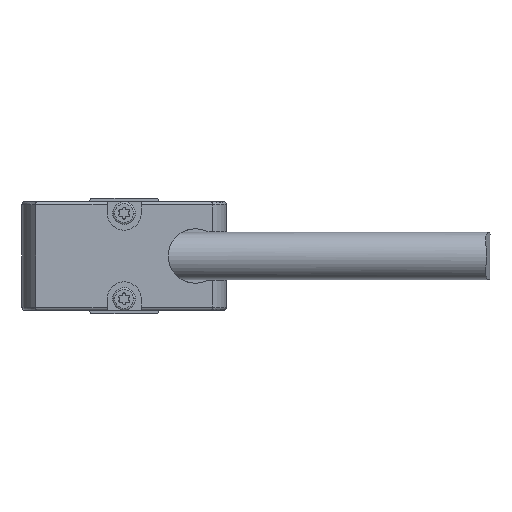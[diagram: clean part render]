
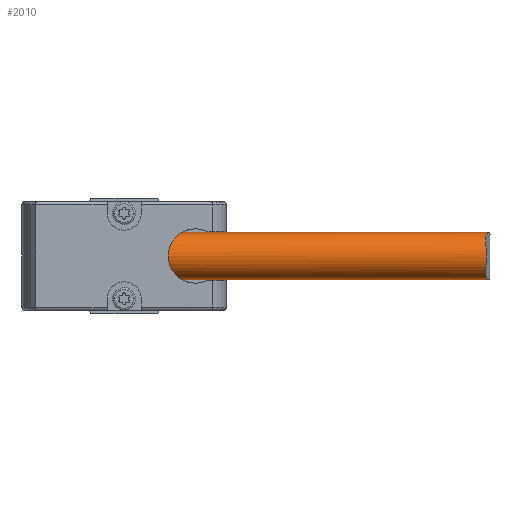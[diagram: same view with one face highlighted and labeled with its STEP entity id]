
A CAD part, front view. The second image highlights one B-rep face of the part: STEP entity #2010.
In plain terms, the highlighted cylindrical face has radius 3.5 mm (diameter 7 mm), a partial arc.
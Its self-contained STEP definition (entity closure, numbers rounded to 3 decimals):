
#1297 = CARTESIAN_POINT ( 'NONE',  ( 53.577, 4.95, -3.5 ) ) ;
#1369 = ORIENTED_EDGE ( 'NONE', *, *, #6492, .T. ) ;
#1558 = CARTESIAN_POINT ( 'NONE',  ( 53.577, 4.95, 3.5 ) ) ;
#1564 = VERTEX_POINT ( 'NONE', #17494 ) ;
#2010 = ADVANCED_FACE ( 'NONE', ( #4254 ), #4469, .T. ) ;
#2567 = CARTESIAN_POINT ( 'NONE',  ( 53.182, 1.564, -0.917 ) ) ;
#2611 = EDGE_CURVE ( 'NONE', #1564, #19064, #19495, .T. ) ;
#2769 = CARTESIAN_POINT ( 'NONE',  ( 53.529, 4.724, -3.5 ) ) ;
#2978 = EDGE_CURVE ( 'NONE', #8297, #19064, #20487, .T. ) ;
#3086 = CARTESIAN_POINT ( 'NONE',  ( 53.224, 3.418, 3.155 ) ) ;
#4254 = FACE_OUTER_BOUND ( 'NONE', #16435, .T. ) ;
#4469 = CYLINDRICAL_SURFACE ( 'NONE', #17158, 3.5 ) ;
#4524 = CARTESIAN_POINT ( 'NONE',  ( 55., 4.95, -3.5 ) ) ;
#4658 = CARTESIAN_POINT ( 'NONE',  ( 53.366, 4.054, 3.391 ) ) ;
#4862 = DIRECTION ( 'NONE',  ( 0., 0., -1. ) ) ;
#4962 = CARTESIAN_POINT ( 'NONE',  ( 53.529, 4.722, 3.5 ) ) ;
#5227 = ORIENTED_EDGE ( 'NONE', *, *, #2978, .F. ) ;
#5703 = B_SPLINE_CURVE_WITH_KNOTS ( 'NONE', 3,
 ( #17078, #2769, #6124, #6234, #9157, #15521, #12594, #10507, #20103, #9256, #14033, #15617, #20412, #16883, #2567, #8946, #15301, #7368, #5817, #14557, #12902, #19267, #12689, #19058, #17692, #17801, #9765, #14342, #3086, #19361, #4658, #11316, #4962, #17512 ),
 .UNSPECIFIED., .F., .F.,
 ( 4, 2, 2, 2, 2, 2, 2, 2, 2, 2, 2, 2, 2, 2, 2, 2, 4 ),
 ( 0.011, 0.012, 0.012, 0.013, 0.014, 0.014, 0.015, 0.016, 0.017, 0.017, 0.018, 0.019, 0.019, 0.02, 0.021, 0.021, 0.022 ),
 .UNSPECIFIED. ) ;
#5817 = CARTESIAN_POINT ( 'NONE',  ( 53.196, 1.473, 0.461 ) ) ;
#6124 = CARTESIAN_POINT ( 'NONE',  ( 53.474, 4.497, -3.478 ) ) ;
#6234 = CARTESIAN_POINT ( 'NONE',  ( 53.367, 4.058, -3.392 ) ) ;
#6329 = CARTESIAN_POINT ( 'NONE',  ( 5., 4.95, -3.5 ) ) ;
#6492 = EDGE_CURVE ( 'NONE', #15193, #1564, #7622, .T. ) ;
#7368 = CARTESIAN_POINT ( 'NONE',  ( 53.2, 1.45, 0.228 ) ) ;
#7622 = LINE ( 'NONE', #10959, #11369 ) ;
#7808 = ORIENTED_EDGE ( 'NONE', *, *, #13948, .T. ) ;
#8297 = VERTEX_POINT ( 'NONE', #1297 ) ;
#8946 = CARTESIAN_POINT ( 'NONE',  ( 53.196, 1.473, -0.461 ) ) ;
#9157 = CARTESIAN_POINT ( 'NONE',  ( 53.315, 3.841, -3.328 ) ) ;
#9256 = CARTESIAN_POINT ( 'NONE',  ( 53.114, 2.326, -2.328 ) ) ;
#9313 = DIRECTION ( 'NONE',  ( -1., 0., 0. ) ) ;
#9765 = CARTESIAN_POINT ( 'NONE',  ( 53.135, 2.833, 2.796 ) ) ;
#10113 = AXIS2_PLACEMENT_3D ( 'NONE', #20513, #18849, #4862 ) ;
#10507 = CARTESIAN_POINT ( 'NONE',  ( 53.136, 2.838, -2.8 ) ) ;
#10517 = DIRECTION ( 'NONE',  ( 0., 0., 1. ) ) ;
#10835 = DIRECTION ( 'NONE',  ( -1., 0., 0. ) ) ;
#10959 = CARTESIAN_POINT ( 'NONE',  ( 55., 4.95, 3.5 ) ) ;
#11316 = CARTESIAN_POINT ( 'NONE',  ( 53.474, 4.496, 3.478 ) ) ;
#11369 = VECTOR ( 'NONE', #17669, 1000. ) ;
#11871 = ORIENTED_EDGE ( 'NONE', *, *, #2611, .T. ) ;
#12072 = CARTESIAN_POINT ( 'NONE',  ( 55., 4.95, 0. ) ) ;
#12594 = CARTESIAN_POINT ( 'NONE',  ( 53.187, 3.218, -3.05 ) ) ;
#12689 = CARTESIAN_POINT ( 'NONE',  ( 53.138, 1.919, 1.766 ) ) ;
#12902 = CARTESIAN_POINT ( 'NONE',  ( 53.172, 1.631, 1.133 ) ) ;
#13948 = EDGE_CURVE ( 'NONE', #8297, #15193, #5703, .T. ) ;
#14033 = CARTESIAN_POINT ( 'NONE',  ( 53.119, 2.179, -2.151 ) ) ;
#14342 = CARTESIAN_POINT ( 'NONE',  ( 53.187, 3.214, 3.047 ) ) ;
#14557 = CARTESIAN_POINT ( 'NONE',  ( 53.182, 1.564, 0.914 ) ) ;
#15193 = VERTEX_POINT ( 'NONE', #1558 ) ;
#15301 = CARTESIAN_POINT ( 'NONE',  ( 53.2, 1.45, -0.232 ) ) ;
#15521 = CARTESIAN_POINT ( 'NONE',  ( 53.224, 3.419, -3.156 ) ) ;
#15617 = CARTESIAN_POINT ( 'NONE',  ( 53.137, 1.921, -1.768 ) ) ;
#16435 = EDGE_LOOP ( 'NONE', ( #5227, #7808, #1369, #11871 ) ) ;
#16883 = CARTESIAN_POINT ( 'NONE',  ( 53.172, 1.632, -1.138 ) ) ;
#17078 = CARTESIAN_POINT ( 'NONE',  ( 53.577, 4.95, -3.5 ) ) ;
#17158 = AXIS2_PLACEMENT_3D ( 'NONE', #12072, #10835, #10517 ) ;
#17494 = CARTESIAN_POINT ( 'NONE',  ( 5., 4.95, 3.5 ) ) ;
#17512 = CARTESIAN_POINT ( 'NONE',  ( 53.577, 4.95, 3.5 ) ) ;
#17669 = DIRECTION ( 'NONE',  ( -1., 0., 0. ) ) ;
#17692 = CARTESIAN_POINT ( 'NONE',  ( 53.114, 2.323, 2.324 ) ) ;
#17801 = CARTESIAN_POINT ( 'NONE',  ( 53.121, 2.654, 2.652 ) ) ;
#18110 = VECTOR ( 'NONE', #9313, 1000. ) ;
#18849 = DIRECTION ( 'NONE',  ( 1., 0., 0. ) ) ;
#19058 = CARTESIAN_POINT ( 'NONE',  ( 53.12, 2.176, 2.147 ) ) ;
#19064 = VERTEX_POINT ( 'NONE', #6329 ) ;
#19267 = CARTESIAN_POINT ( 'NONE',  ( 53.15, 1.808, 1.559 ) ) ;
#19361 = CARTESIAN_POINT ( 'NONE',  ( 53.314, 3.839, 3.327 ) ) ;
#19495 = CIRCLE ( 'NONE', #10113, 3.5 ) ;
#20103 = CARTESIAN_POINT ( 'NONE',  ( 53.121, 2.656, -2.653 ) ) ;
#20412 = CARTESIAN_POINT ( 'NONE',  ( 53.15, 1.81, -1.562 ) ) ;
#20487 = LINE ( 'NONE', #4524, #18110 ) ;
#20513 = CARTESIAN_POINT ( 'NONE',  ( 5., 4.95, 0. ) ) ;
